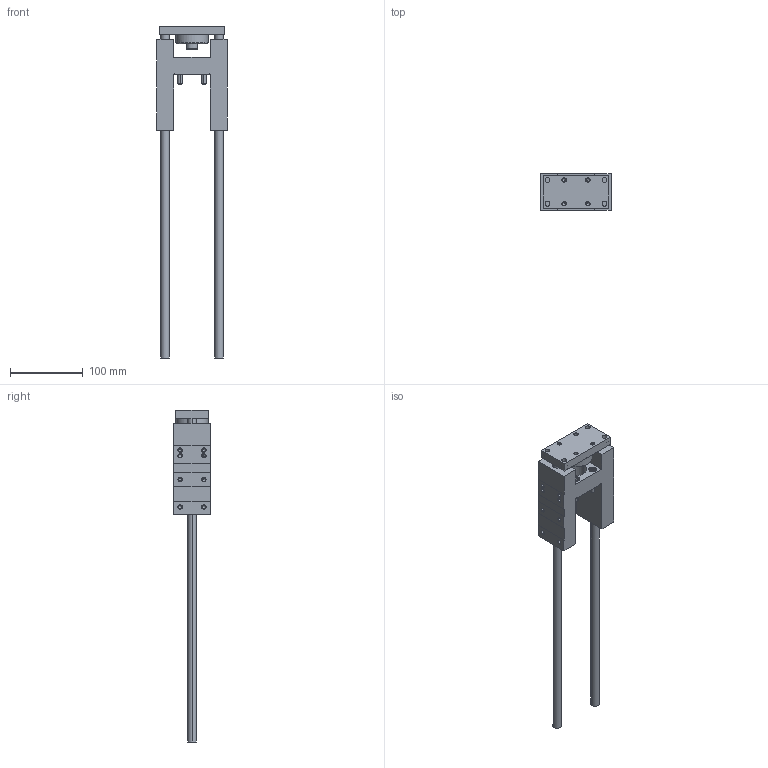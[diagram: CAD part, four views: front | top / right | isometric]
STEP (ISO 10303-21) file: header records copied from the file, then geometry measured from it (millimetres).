
FILE_DESCRIPTION (( 'STEP AP203' ), '1' );
FILE_NAME ('GB32-300.STEP', '2020-04-24T11:12:23', ( '' ), ( '' ), 'SwSTEP 2.0', 'SolidWorks 2019', '' );
FILE_SCHEMA (( 'CONFIG_CONTROL_DESIGN' ));
Length unit declared in the file: millimetre
Products named in the file (1): GB32-300
Bounding box: 97 x 50 x 455 mm (x, y, z)
Volume: 461794.7 mm3; surface area: 114975.9 mm2
Topology: 6 solids, 6 shells, 377 faces, 862 edges, 494 vertices
Faces by surface type: cone 154, plane 117, cylinder 106
Entity records: 11155 total; most frequent: CARTESIAN_POINT 2540, DIRECTION 1916, ORIENTED_EDGE 1660, EDGE_CURVE 830, AXIS2_PLACEMENT_3D 756, VERTEX_POINT 494, EDGE_LOOP 444, VECTOR 404
